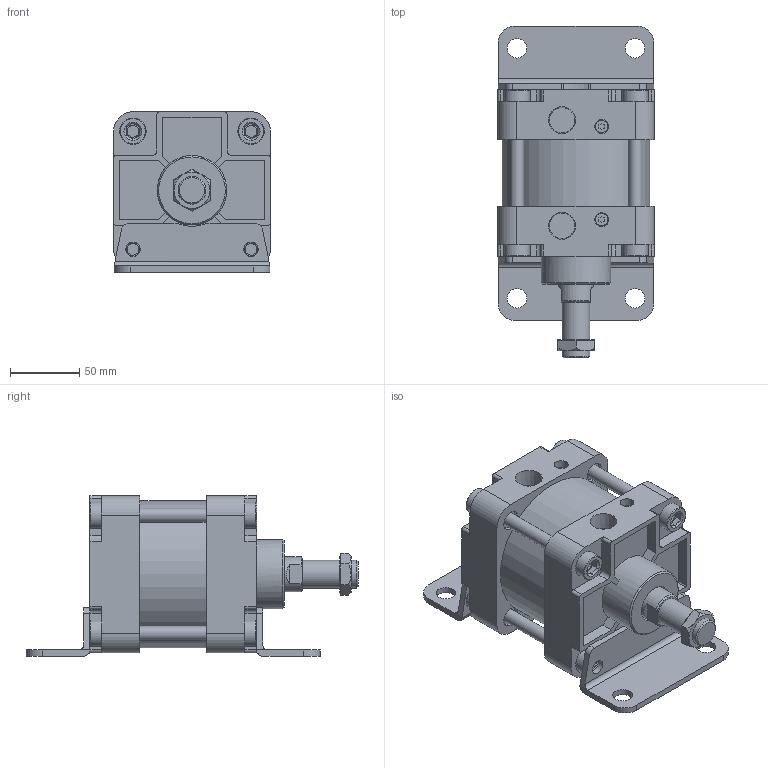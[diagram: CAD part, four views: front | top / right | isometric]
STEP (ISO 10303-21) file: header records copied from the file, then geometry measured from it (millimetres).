
FILE_DESCRIPTION(/* description */ ('Unknown'),/* implementation_level */ '2;1');
FILE_NAME(/* name */ 'WA100-0-LB',/* time_stamp */ '2026-07-17T16:57:46+08:00',/* author */ ('Unknown'),/* organization */ ('Unknown'),/* preprocessor_version */ 'ST-DEVELOPER v16.7',/* originating_system */ 'DEX',/* authorisation */ $);
FILE_SCHEMA (('CONFIG_CONTROL_DESIGN'));
Length unit declared in the file: millimetre
Products named in the file (8): WA100-0-LB; WA100_前; WA100_後0; WA100_ｾT∫ｮ｡; WA100_¤ß¶b¬¡æ´»å¡žçµ„; WA100_T帽牙; WA100_LB; M20-1.5P-8_螺
Assembly tree (11 placements, depth 2):
  WA100-0-LB
    WA100_前
    WA100_後0
    WA100_ｾT∫ｮ｡
    WA100_¤ß¶b¬¡æ´»å¡žçµ„
    WA100_T帽牙  x4
    WA100_LB  x2
    M20-1.5P-8_螺
Bounding box: 113 x 239 x 115.5 mm (x, y, z)
Volume: 1321920 mm3; surface area: 244483 mm2
Topology: 11 solids, 11 shells, 401 faces, 987 edges, 657 vertices
Faces by surface type: plane 241, cylinder 129, cone 23, torus 8
Full cylindrical faces by diameter (mm): 8.5 x8, 9 x2, 10 x6, 10.5 x4, 14 x12, 14.2 x8, 18.376 x1, 19 x8, 20 x1, 25 x2, 26 x1, 50 x1, 99.5 x1, 100 x3, 106 x1
Entity records: 10016 total; most frequent: CARTESIAN_POINT 1504, DIRECTION 1422, ORIENTED_EDGE 1288, EDGE_CURVE 644, AXIS2_PLACEMENT_3D 516, VERTEX_POINT 450, LINE 390, VECTOR 390
